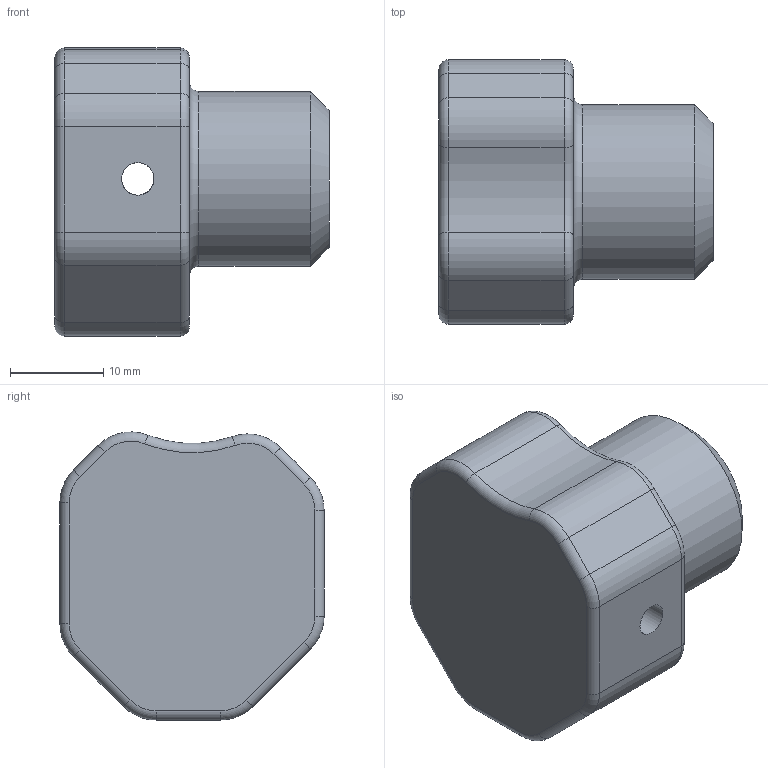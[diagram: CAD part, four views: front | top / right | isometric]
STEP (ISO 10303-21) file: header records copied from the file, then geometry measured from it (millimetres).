
FILE_DESCRIPTION(/* description */ ('Unknown'),/* implementation_level */ '2;1');
FILE_NAME(/* name */ 'Łoże Taktyczne Lite Bracket 1',/* time_stamp */ '2025-08-27T16:46:39+02:00',/* author */ ('Unknown'),/* organization */ ('Unknown'),/* preprocessor_version */ 'ST-DEVELOPER v16.7',/* originating_system */ 'DEX',/* authorisation */ $);
FILE_SCHEMA (('AUTOMOTIVE_DESIGN {1 0 10303 214 3 1 1}'));
Length unit declared in the file: millimetre
Products named in the file (1): Loze Taktyczne Lite Bracket 1
Bounding box: 29.46 x 28.4 x 30.97 mm (x, y, z)
Volume: 11463.1 mm3; surface area: 4809.4 mm2
Topology: 1 solids, 1 shells, 58 faces, 135 edges, 80 vertices
Faces by surface type: cylinder 27, torus 19, plane 11, cone 1
Full cylindrical faces by diameter (mm): 3.5 x2, 13 x1, 18.8 x1
Entity records: 1620 total; most frequent: DIRECTION 314, CARTESIAN_POINT 275, ORIENTED_EDGE 244, AXIS2_PLACEMENT_3D 135, EDGE_CURVE 122, CIRCLE 76, VERTEX_POINT 74, EDGE_LOOP 70
